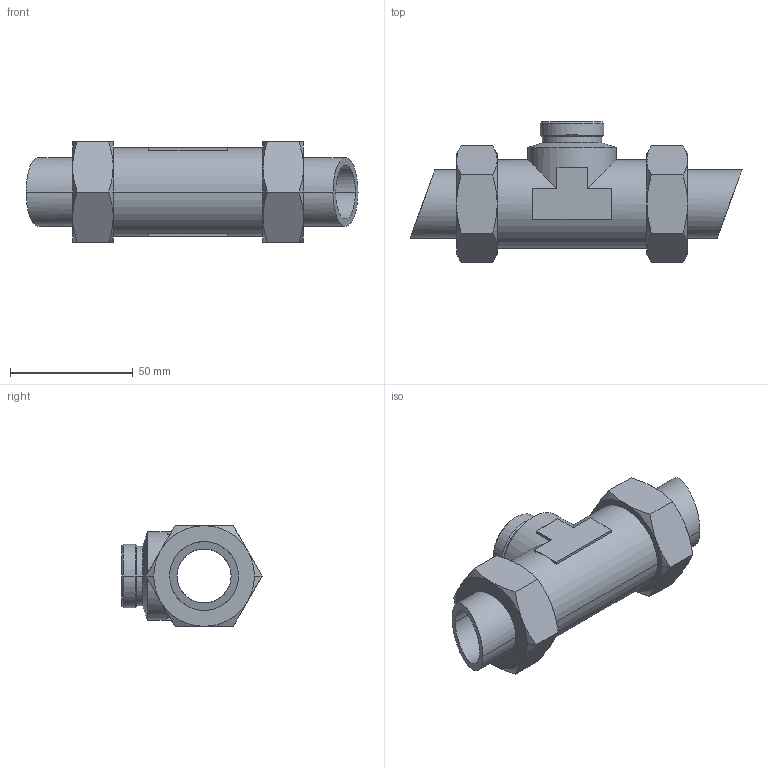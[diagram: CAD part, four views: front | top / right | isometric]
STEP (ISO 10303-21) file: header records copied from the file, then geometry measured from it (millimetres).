
FILE_DESCRIPTION( ( '' ), '1' );
FILE_NAME( '//partserver001.servicenet/client_exchange/iodir/jobs/output/wkb10473877_no0/STEP/e40080_2_03.stp', '2008-05-06T10:58:05', ( '' ), ( '' ), ' ', ' ', ' ' );
FILE_SCHEMA( ( 'CONFIG_CONTROL_DESIGN' ) );
Length unit declared in the file: millimetre
Products named in the file (1): 1
Bounding box: 135.19 x 57.17 x 41 mm (x, y, z)
Volume: 91571.9 mm3; surface area: 28448.6 mm2
Topology: 1 solids, 1 shells, 103 faces, 237 edges, 141 vertices
Faces by surface type: plane 45, cone 40, cylinder 18
Entity records: 2938 total; most frequent: CARTESIAN_POINT 645, DIRECTION 484, ORIENTED_EDGE 474, EDGE_CURVE 237, AXIS2_PLACEMENT_3D 194, VERTEX_POINT 141, EDGE_LOOP 112, ADVANCED_FACE 103
